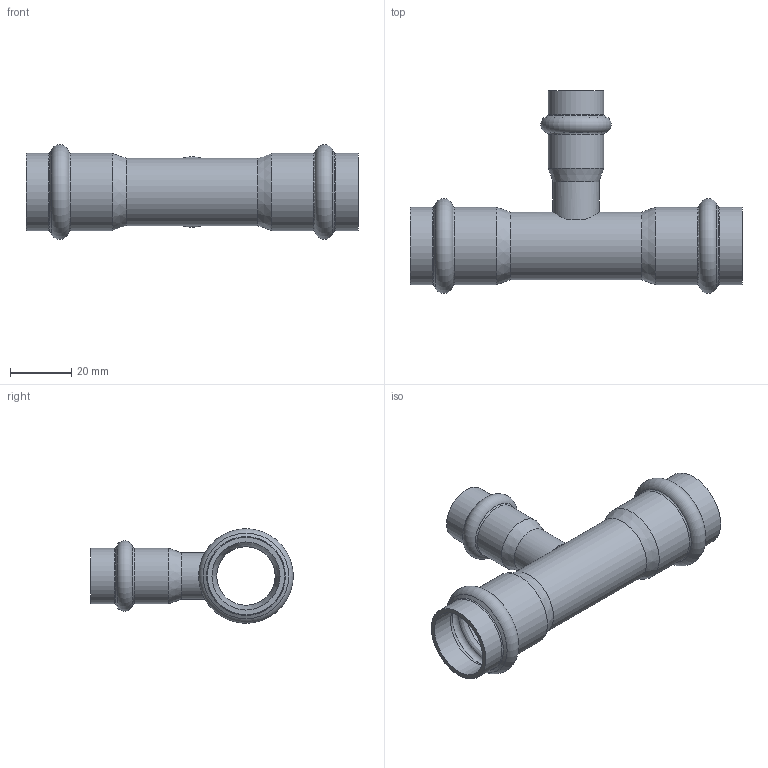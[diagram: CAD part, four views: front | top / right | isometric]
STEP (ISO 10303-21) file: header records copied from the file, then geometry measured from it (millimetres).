
FILE_DESCRIPTION((''),'2;1');
FILE_NAME('G:\Nirosan-Schmiedefeld\Technics\CAD\Bauteile VA\022\69130221522(3).stp','2012-01-31T09:20:36',('herberg'),(''),'Autodesk Inventor 2009','Autodesk Inventor 2009','');
FILE_SCHEMA(('AUTOMOTIVE_DESIGN { 1 0 10303 214 1 1 1 1 }'));
Length unit declared in the file: millimetre
Products named in the file (3): 69130221522(3); LM_69130221522(3); HM_69130221522(0)
Assembly tree (2 placements, depth 2):
  69130221522(3)
    LM_69130221522(3)
    HM_69130221522(0)
Bounding box: 108 x 65.89 x 30.79 mm (x, y, z)
Volume: 15387.5 mm3; surface area: 20943.4 mm2
Topology: 2 solids, 2 shells, 53 faces, 115 edges, 65 vertices
Faces by surface type: cylinder 18, cone 12, bspline 12, torus 6, plane 5
Full cylindrical faces by diameter (mm): 11 x1, 12 x1, 15 x1, 15.15 x2, 18.15 x2, 19 x1, 22 x1, 22.15 x4, 25.15 x4
Entity records: 1944 total; most frequent: CARTESIAN_POINT 989, DIRECTION 194, ORIENTED_EDGE 114, EDGE_LOOP 106, AXIS2_PLACEMENT_3D 96, EDGE_CURVE 57, VERTEX_POINT 55, FACE_OUTER_BOUND 53
